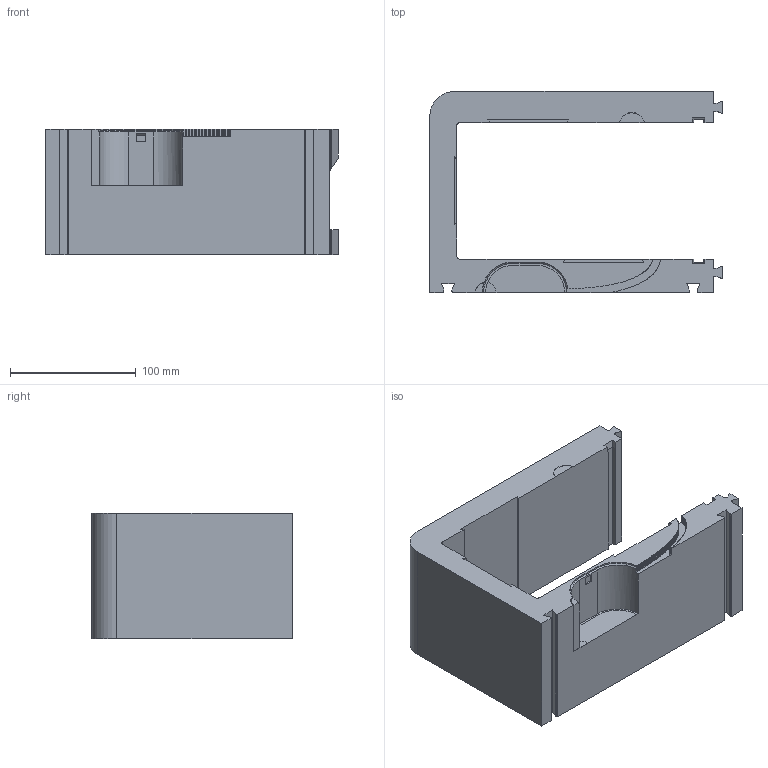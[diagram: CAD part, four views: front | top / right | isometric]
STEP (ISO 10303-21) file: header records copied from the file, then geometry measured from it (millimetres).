
FILE_DESCRIPTION(('Open CASCADE Model'),'2;1');
FILE_NAME('Open CASCADE Shape Model','2026-11-01T05:34:04',('Author'),( 'Open CASCADE'),'Open CASCADE STEP processor 7.8','Open CASCADE 7.8' ,'Unknown');
FILE_SCHEMA(('AUTOMOTIVE_DESIGN { 1 0 10303 214 1 1 1 1 }'));
Length unit declared in the file: millimetre
Products named in the file (1): Open CASCADE STEP translator 7.8 4
Bounding box: 233.01 x 159.98 x 100 mm (x, y, z)
Volume: 1272166.9 mm3; surface area: 155114.3 mm2
Topology: 1 solids, 1 shells, 289 faces, 851 edges, 565 vertices
Faces by surface type: plane 251, cylinder 30, bspline 6, cone 2
Entity records: 20688 total; most frequent: CARTESIAN_POINT 4058, DIRECTION 2975, LINE 2231, VECTOR 2231, ORIENTED_EDGE 1702, PCURVE 1702, DEFINITIONAL_REPRESENTATION 1702, EDGE_CURVE 851
